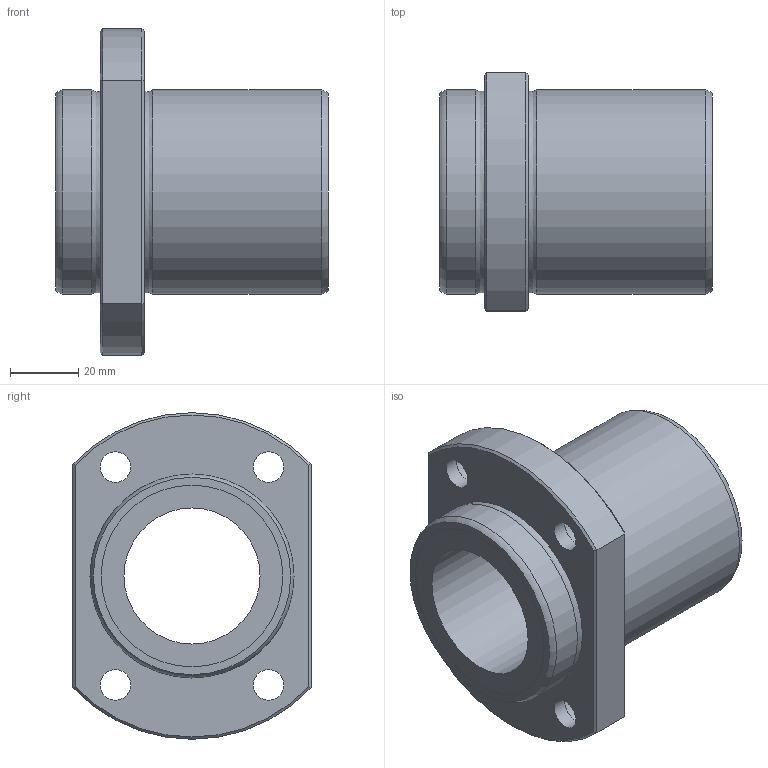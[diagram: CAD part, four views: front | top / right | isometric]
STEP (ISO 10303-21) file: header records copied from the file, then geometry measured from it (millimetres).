
FILE_DESCRIPTION((''),'2;1');
FILE_NAME('D:\製品 (図面)\カタログ用3D\リニアベアリング関連\STEP形式\LFTB\LFTB40.stp','2010-06-04T09:27:30',('Tsuchiya'),(''),'Autodesk Inventor 10','Autodesk Inventor 10','');
FILE_SCHEMA(('AUTOMOTIVE_DESIGN { 1 0 10303 214 1 1 1 1 }'));
Length unit declared in the file: millimetre
Products named in the file (1): LFTB40
Bounding box: 80 x 70 x 96 mm (x, y, z)
Volume: 160311.7 mm3; surface area: 37197.6 mm2
Topology: 1 solids, 1 shells, 39 faces, 75 edges, 46 vertices
Faces by surface type: bspline 14, plane 12, cylinder 7, cone 4, torus 2
Full cylindrical faces by diameter (mm): 40 x1, 53.4 x2, 60 x2
Entity records: 1177 total; most frequent: CARTESIAN_POINT 440, DIRECTION 140, ORIENTED_EDGE 116, EDGE_LOOP 74, AXIS2_PLACEMENT_3D 64, EDGE_CURVE 58, VERTEX_POINT 46, FACE_OUTER_BOUND 39
